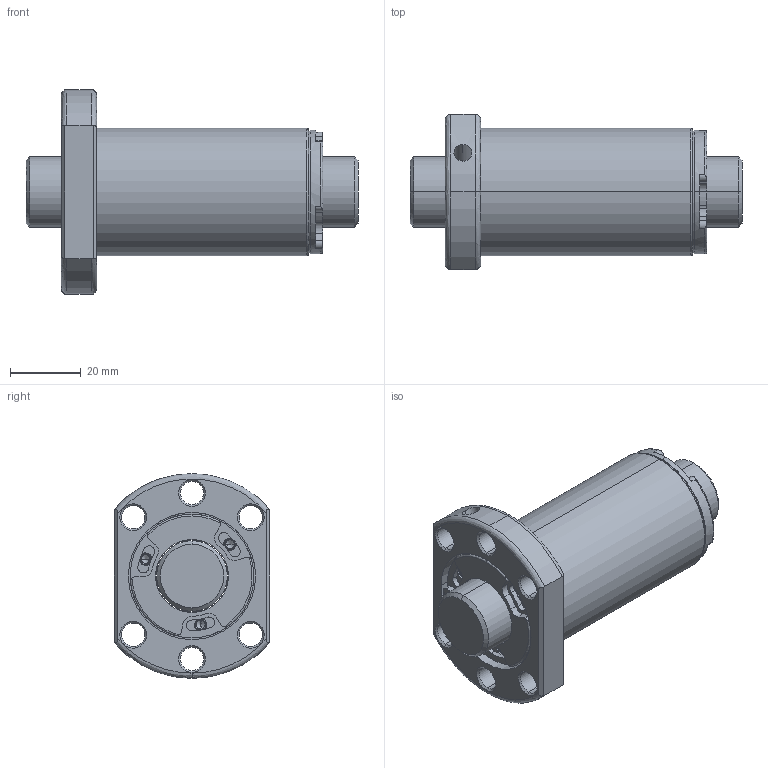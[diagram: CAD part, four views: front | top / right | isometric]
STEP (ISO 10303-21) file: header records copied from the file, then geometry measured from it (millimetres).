
FILE_DESCRIPTION (( 'STEP AP203' ), '1' );
FILE_NAME ('SFSR02020B1D-C.STEP', '2020-06-17T01:01:20', ( '' ), ( '' ), 'SwSTEP 2.0', 'SolidWorks 2013', '' );
FILE_SCHEMA (( 'CONFIG_CONTROL_DESIGN' ));
Length unit declared in the file: millimetre
Products named in the file (1): SFSR02020B1D-C
Bounding box: 94 x 44 x 58 mm (x, y, z)
Volume: 86070.9 mm3; surface area: 26687.5 mm2
Topology: 2 solids, 2 shells, 265 faces, 672 edges, 417 vertices
Faces by surface type: cylinder 129, plane 68, cone 52, bspline 16
Entity records: 8898 total; most frequent: CARTESIAN_POINT 2307, DIRECTION 1483, ORIENTED_EDGE 1320, EDGE_CURVE 660, AXIS2_PLACEMENT_3D 623, VERTEX_POINT 417, CIRCLE 373, EDGE_LOOP 301
